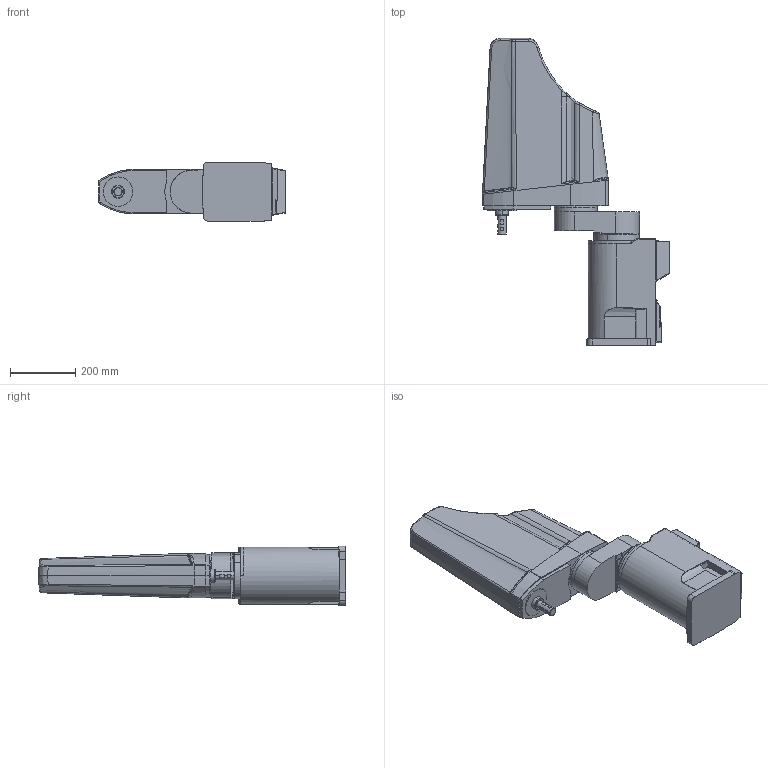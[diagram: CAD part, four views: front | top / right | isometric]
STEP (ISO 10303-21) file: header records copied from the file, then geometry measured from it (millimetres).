
FILE_DESCRIPTION((''),'2;1');
FILE_NAME('RH-6FH3534-3D-ASSY_ASM_ASM','2012-04-25T',('AL99964'),(''),'PRO/ENGINEER BY PARAMETRIC TECHNOLOGY CORPORATION, 2010160','PRO/ENGINEER BY PARAMETRIC TECHNOLOGY CORPORATION, 2010160','');
FILE_SCHEMA(('CONFIG_CONTROL_DESIGN'));
Length unit declared in the file: millimetre
Products named in the file (5): RH-3-6FH_BASE_24; RH-3-6FH_NO1ARM_35_8; RH-6FH_NO2ARM_340; RH-6FH_SHAFT_3; RH-6FH3534-3D-ASSY_ASM_ASM
Assembly tree (4 placements, depth 2):
  RH-6FH3534-3D-ASSY_ASM_ASM
    RH-3-6FH_BASE_24
    RH-3-6FH_NO1ARM_35_8
    RH-6FH_NO2ARM_340
    RH-6FH_SHAFT_3
Bounding box: 572 x 938 x 182 mm (x, y, z)
Volume: 30318807.7 mm3; surface area: 1080315.6 mm2
Topology: 4 solids, 4 shells, 485 faces, 1198 edges, 734 vertices
Faces by surface type: cylinder 156, bspline 143, plane 130, torus 24, cone 13, sphere 13, extrusion 6
Entity records: 29144 total; most frequent: CARTESIAN_POINT 18736, ORIENTED_EDGE 2376, DIRECTION 1824, EDGE_CURVE 1188, VERTEX_POINT 734, AXIS2_PLACEMENT_3D 702, EDGE_LOOP 510, FACE_OUTER_BOUND 485
